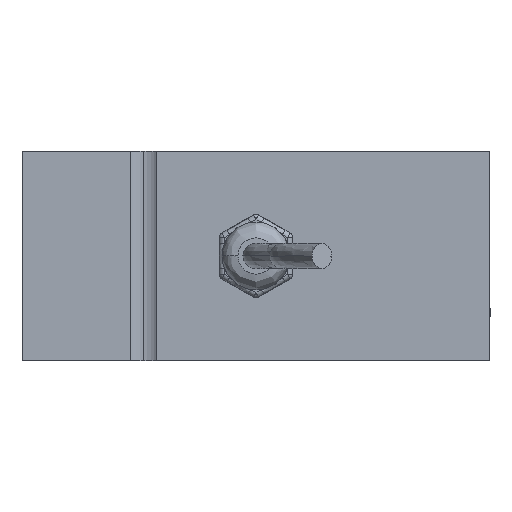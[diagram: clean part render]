
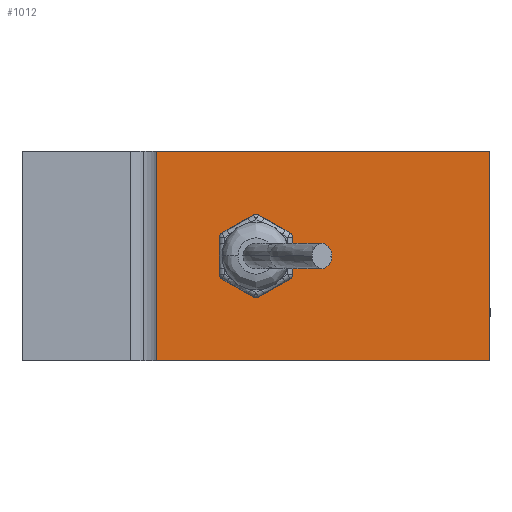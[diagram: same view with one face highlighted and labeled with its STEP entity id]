
A CAD part, left-side view. The second image highlights one B-rep face of the part: STEP entity #1012.
In plain terms, the highlighted planar face has unit normal (-1, 0, 0).
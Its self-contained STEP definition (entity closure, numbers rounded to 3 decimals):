
#205 = CARTESIAN_POINT ( 'NONE',  ( 17.234, -71.935, 95.024 ) ) ;
#209 = VECTOR ( 'NONE', #4408, 1000. ) ;
#523 = LINE ( 'NONE', #1803, #3473 ) ;
#587 = AXIS2_PLACEMENT_3D ( 'NONE', #1169, #4070, #3674 ) ;
#610 = ORIENTED_EDGE ( 'NONE', *, *, #3826, .T. ) ;
#710 = CARTESIAN_POINT ( 'NONE',  ( 17.234, -71.935, 134.824 ) ) ;
#817 = ORIENTED_EDGE ( 'NONE', *, *, #4851, .T. ) ;
#852 = DIRECTION ( 'NONE',  ( 0., 0., -1. ) ) ;
#1012 = ADVANCED_FACE ( 'NONE', ( #2099 ), #1289, .T. ) ;
#1129 = VERTEX_POINT ( 'NONE', #3362 ) ;
#1169 = CARTESIAN_POINT ( 'NONE',  ( 17.234, -71.935, 95.024 ) ) ;
#1171 = LINE ( 'NONE', #1814, #3169 ) ;
#1186 = ORIENTED_EDGE ( 'NONE', *, *, #4017, .T. ) ;
#1289 = PLANE ( 'NONE',  #587 ) ;
#1411 = ORIENTED_EDGE ( 'NONE', *, *, #4626, .F. ) ;
#1613 = CARTESIAN_POINT ( 'NONE',  ( 17.234, -71.935, 95.024 ) ) ;
#1764 = VECTOR ( 'NONE', #852, 1000. ) ;
#1803 = CARTESIAN_POINT ( 'NONE',  ( 17.234, -71.935, 134.824 ) ) ;
#1814 = CARTESIAN_POINT ( 'NONE',  ( 17.234, -27.585, 95.024 ) ) ;
#1891 = EDGE_LOOP ( 'NONE', ( #1186, #1411, #817, #610 ) ) ;
#2099 = FACE_OUTER_BOUND ( 'NONE', #1891, .T. ) ;
#2206 = LINE ( 'NONE', #1613, #209 ) ;
#2618 = DIRECTION ( 'NONE',  ( 0., 1., 0. ) ) ;
#3015 = VERTEX_POINT ( 'NONE', #205 ) ;
#3169 = VECTOR ( 'NONE', #4605, 1000. ) ;
#3214 = VERTEX_POINT ( 'NONE', #4387 ) ;
#3362 = CARTESIAN_POINT ( 'NONE',  ( 17.234, -8.685, 95.024 ) ) ;
#3473 = VECTOR ( 'NONE', #2618, 1000. ) ;
#3674 = DIRECTION ( 'NONE',  ( 0., 0., 1. ) ) ;
#3826 = EDGE_CURVE ( 'NONE', #3214, #1129, #4939, .T. ) ;
#4017 = EDGE_CURVE ( 'NONE', #1129, #3015, #1171, .T. ) ;
#4042 = CARTESIAN_POINT ( 'NONE',  ( 17.234, -8.685, 95.024 ) ) ;
#4070 = DIRECTION ( 'NONE',  ( -1., 0., 0. ) ) ;
#4369 = VERTEX_POINT ( 'NONE', #710 ) ;
#4387 = CARTESIAN_POINT ( 'NONE',  ( 17.234, -8.685, 134.824 ) ) ;
#4408 = DIRECTION ( 'NONE',  ( 0., 0., -1. ) ) ;
#4605 = DIRECTION ( 'NONE',  ( 0., -1., 0. ) ) ;
#4626 = EDGE_CURVE ( 'NONE', #4369, #3015, #2206, .T. ) ;
#4851 = EDGE_CURVE ( 'NONE', #4369, #3214, #523, .T. ) ;
#4939 = LINE ( 'NONE', #4042, #1764 ) ;
